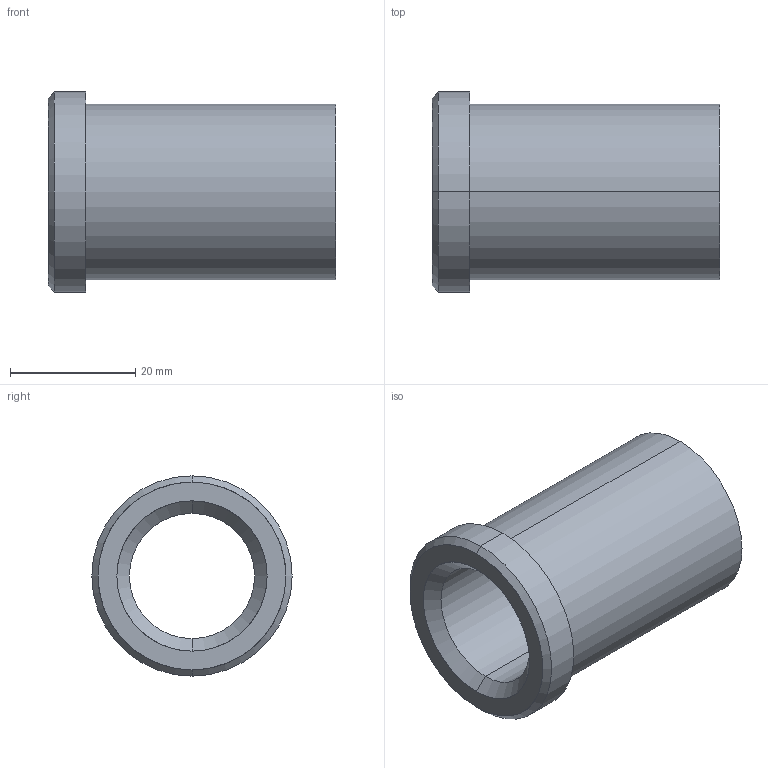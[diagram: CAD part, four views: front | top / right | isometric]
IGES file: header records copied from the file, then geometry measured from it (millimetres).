
Start section: START RECORD GO HERE.
Global section: file name: 353-20X46.igs; native system: DASSAULT SYSTEMES CATIA V5 R20 - www.3ds.com; preprocessor: CATIA Version 5 Release 20 ; author: Utente; organization: NB04-ASUS; date: 20210511.165000; units: millimetre
Bounding box: 46 x 32 x 32 mm (x, y, z)
Surface area: 7824.2 mm2 (no closed solid volume)
Topology: 0 solids, 0 shells, 15 faces, 96 edges, 96 vertices
Faces by surface type: revolution 12, plane 3
